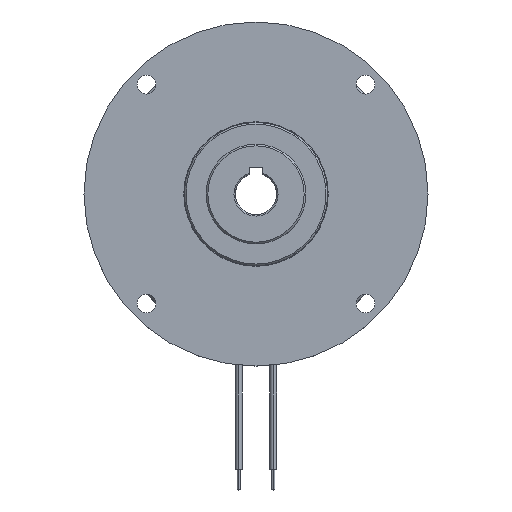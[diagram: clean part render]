
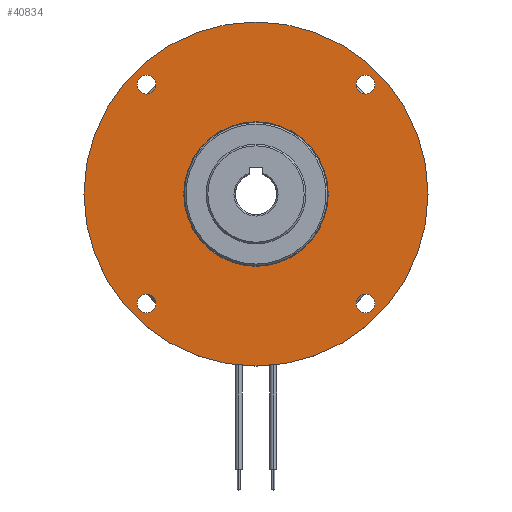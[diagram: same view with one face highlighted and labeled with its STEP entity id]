
A CAD part, top view. The second image highlights one B-rep face of the part: STEP entity #40834.
In plain terms, the highlighted planar face has unit normal (0, 0, 1).
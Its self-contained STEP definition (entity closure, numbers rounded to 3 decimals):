
#3764 = DIRECTION ( 'NONE',  ( -1., 0., 0. ) ) ;
#4330 = VERTEX_POINT ( 'NONE', #70142 ) ;
#4868 = CIRCLE ( 'NONE', #85095, 2.75 ) ;
#7172 = CARTESIAN_POINT ( 'NONE',  ( -21., 0., 0. ) ) ;
#9458 = VERTEX_POINT ( 'NONE', #82397 ) ;
#10995 = CARTESIAN_POINT ( 'NONE',  ( -31.82, 31.82, 0. ) ) ;
#11081 = DIRECTION ( 'NONE',  ( -1., 0., 0. ) ) ;
#11146 = CIRCLE ( 'NONE', #25384, 2.75 ) ;
#11988 = EDGE_CURVE ( 'NONE', #19057, #4330, #105166, .T. ) ;
#12951 = VERTEX_POINT ( 'NONE', #30511 ) ;
#13794 = ORIENTED_EDGE ( 'NONE', *, *, #35225, .T. ) ;
#15582 = CARTESIAN_POINT ( 'NONE',  ( 0., 50., 0. ) ) ;
#16124 = FACE_BOUND ( 'NONE', #69170, .T. ) ;
#16131 = VERTEX_POINT ( 'NONE', #94297 ) ;
#16792 = AXIS2_PLACEMENT_3D ( 'NONE', #10995, #75872, #19922 ) ;
#17080 = DIRECTION ( 'NONE',  ( 0., 0., -1. ) ) ;
#17370 = EDGE_CURVE ( 'NONE', #95639, #23855, #38507, .T. ) ;
#17781 = FACE_BOUND ( 'NONE', #86201, .T. ) ;
#19057 = VERTEX_POINT ( 'NONE', #7172 ) ;
#19226 = DIRECTION ( 'NONE',  ( 0., 0., -1. ) ) ;
#19418 = DIRECTION ( 'NONE',  ( 0., 0., -1. ) ) ;
#19922 = DIRECTION ( 'NONE',  ( -1., 0., 0. ) ) ;
#20063 = AXIS2_PLACEMENT_3D ( 'NONE', #97360, #88964, #69481 ) ;
#20790 = AXIS2_PLACEMENT_3D ( 'NONE', #50366, #33062, #30874 ) ;
#21067 = CARTESIAN_POINT ( 'NONE',  ( -34.57, 31.82, 0. ) ) ;
#21420 = DIRECTION ( 'NONE',  ( -1., 0., 0. ) ) ;
#23687 = EDGE_CURVE ( 'NONE', #16131, #88543, #4868, .T. ) ;
#23855 = VERTEX_POINT ( 'NONE', #82486 ) ;
#25025 = DIRECTION ( 'NONE',  ( 0., 0., -1. ) ) ;
#25384 = AXIS2_PLACEMENT_3D ( 'NONE', #48357, #99167, #3764 ) ;
#25431 = CARTESIAN_POINT ( 'NONE',  ( 0., 0., 0. ) ) ;
#25958 = EDGE_LOOP ( 'NONE', ( #103719, #81990 ) ) ;
#30511 = CARTESIAN_POINT ( 'NONE',  ( 50., 0., 0. ) ) ;
#30520 = EDGE_CURVE ( 'NONE', #23855, #95639, #93157, .T. ) ;
#30763 = AXIS2_PLACEMENT_3D ( 'NONE', #95674, #19226, #21420 ) ;
#30874 = DIRECTION ( 'NONE',  ( -1., 0., 0. ) ) ;
#33062 = DIRECTION ( 'NONE',  ( 0., 0., -1. ) ) ;
#33333 = ORIENTED_EDGE ( 'NONE', *, *, #49037, .T. ) ;
#33468 = DIRECTION ( 'NONE',  ( -1., 0., 0. ) ) ;
#33849 = AXIS2_PLACEMENT_3D ( 'NONE', #25431, #17080, #84023 ) ;
#35225 = EDGE_CURVE ( 'NONE', #9458, #48811, #91358, .T. ) ;
#35684 = CARTESIAN_POINT ( 'NONE',  ( 0., 0., 0. ) ) ;
#36072 = VERTEX_POINT ( 'NONE', #21067 ) ;
#36259 = DIRECTION ( 'NONE',  ( -1., 0., 0. ) ) ;
#36508 = EDGE_LOOP ( 'NONE', ( #65456, #33333 ) ) ;
#37481 = VERTEX_POINT ( 'NONE', #59401 ) ;
#37899 = DIRECTION ( 'NONE',  ( 0., 0., -1. ) ) ;
#38507 = CIRCLE ( 'NONE', #92001, 2.75 ) ;
#40834 = ADVANCED_FACE ( 'NONE', ( #16124, #100947, #49572, #50122, #67999, #17781 ), #109337, .F. ) ;
#40874 = AXIS2_PLACEMENT_3D ( 'NONE', #35684, #69739, #103796 ) ;
#41195 = DIRECTION ( 'NONE',  ( -1., 0., 0. ) ) ;
#42391 = ORIENTED_EDGE ( 'NONE', *, *, #55561, .F. ) ;
#47944 = CIRCLE ( 'NONE', #108637, 2.75 ) ;
#48357 = CARTESIAN_POINT ( 'NONE',  ( -31.82, 31.82, 0. ) ) ;
#48811 = VERTEX_POINT ( 'NONE', #91498 ) ;
#49037 = EDGE_CURVE ( 'NONE', #104014, #36072, #11146, .T. ) ;
#49441 = CARTESIAN_POINT ( 'NONE',  ( -29.07, 31.82, 0. ) ) ;
#49572 = FACE_BOUND ( 'NONE', #84349, .T. ) ;
#50122 = FACE_BOUND ( 'NONE', #36508, .T. ) ;
#50202 = DIRECTION ( 'NONE',  ( 0., 0., -1. ) ) ;
#50366 = CARTESIAN_POINT ( 'NONE',  ( 0., 0., 0. ) ) ;
#55561 = EDGE_CURVE ( 'NONE', #37481, #12951, #74721, .T. ) ;
#56350 = EDGE_CURVE ( 'NONE', #48811, #9458, #106646, .T. ) ;
#56990 = DIRECTION ( 'NONE',  ( 0., 0., -1. ) ) ;
#58821 = EDGE_LOOP ( 'NONE', ( #42391, #60362 ) ) ;
#59401 = CARTESIAN_POINT ( 'NONE',  ( -50., 0., 0. ) ) ;
#59404 = ORIENTED_EDGE ( 'NONE', *, *, #11988, .T. ) ;
#59446 = AXIS2_PLACEMENT_3D ( 'NONE', #15582, #25025, #41195 ) ;
#60362 = ORIENTED_EDGE ( 'NONE', *, *, #63280, .F. ) ;
#61840 = CARTESIAN_POINT ( 'NONE',  ( -31.82, -31.82, 0. ) ) ;
#61923 = CARTESIAN_POINT ( 'NONE',  ( 31.82, -31.82, 0. ) ) ;
#62440 = ORIENTED_EDGE ( 'NONE', *, *, #90411, .T. ) ;
#63183 = CARTESIAN_POINT ( 'NONE',  ( 31.82, 31.82, 0. ) ) ;
#63280 = EDGE_CURVE ( 'NONE', #12951, #37481, #105679, .T. ) ;
#65339 = CIRCLE ( 'NONE', #20790, 21. ) ;
#65456 = ORIENTED_EDGE ( 'NONE', *, *, #102928, .T. ) ;
#67999 = FACE_OUTER_BOUND ( 'NONE', #58821, .T. ) ;
#68149 = AXIS2_PLACEMENT_3D ( 'NONE', #69651, #19418, #97003 ) ;
#69170 = EDGE_LOOP ( 'NONE', ( #13794, #80599 ) ) ;
#69481 = DIRECTION ( 'NONE',  ( -1., 0., 0. ) ) ;
#69651 = CARTESIAN_POINT ( 'NONE',  ( 31.82, -31.82, 0. ) ) ;
#69739 = DIRECTION ( 'NONE',  ( 0., 0., -1. ) ) ;
#70142 = CARTESIAN_POINT ( 'NONE',  ( 21., 0., 0. ) ) ;
#70208 = CARTESIAN_POINT ( 'NONE',  ( 29.07, -31.82, 0. ) ) ;
#70448 = EDGE_CURVE ( 'NONE', #4330, #19057, #65339, .T. ) ;
#72750 = AXIS2_PLACEMENT_3D ( 'NONE', #63183, #56990, #106694 ) ;
#74721 = CIRCLE ( 'NONE', #40874, 50. ) ;
#75872 = DIRECTION ( 'NONE',  ( 0., 0., -1. ) ) ;
#80599 = ORIENTED_EDGE ( 'NONE', *, *, #56350, .T. ) ;
#81990 = ORIENTED_EDGE ( 'NONE', *, *, #30520, .T. ) ;
#82397 = CARTESIAN_POINT ( 'NONE',  ( 29.07, 31.82, 0. ) ) ;
#82486 = CARTESIAN_POINT ( 'NONE',  ( 34.57, -31.82, 0. ) ) ;
#84023 = DIRECTION ( 'NONE',  ( -1., 0., 0. ) ) ;
#84349 = EDGE_LOOP ( 'NONE', ( #89998, #62440 ) ) ;
#85095 = AXIS2_PLACEMENT_3D ( 'NONE', #109957, #50202, #33468 ) ;
#85237 = CARTESIAN_POINT ( 'NONE',  ( -29.07, -31.82, 0. ) ) ;
#86201 = EDGE_LOOP ( 'NONE', ( #59404, #92294 ) ) ;
#88543 = VERTEX_POINT ( 'NONE', #85237 ) ;
#88964 = DIRECTION ( 'NONE',  ( 0., 0., -1. ) ) ;
#89998 = ORIENTED_EDGE ( 'NONE', *, *, #23687, .T. ) ;
#90411 = EDGE_CURVE ( 'NONE', #88543, #16131, #47944, .T. ) ;
#91358 = CIRCLE ( 'NONE', #20063, 2.75 ) ;
#91498 = CARTESIAN_POINT ( 'NONE',  ( 34.57, 31.82, 0. ) ) ;
#92001 = AXIS2_PLACEMENT_3D ( 'NONE', #61923, #37899, #36259 ) ;
#92294 = ORIENTED_EDGE ( 'NONE', *, *, #70448, .T. ) ;
#93157 = CIRCLE ( 'NONE', #68149, 2.75 ) ;
#94297 = CARTESIAN_POINT ( 'NONE',  ( -34.57, -31.82, 0. ) ) ;
#95239 = CIRCLE ( 'NONE', #16792, 2.75 ) ;
#95639 = VERTEX_POINT ( 'NONE', #70208 ) ;
#95674 = CARTESIAN_POINT ( 'NONE',  ( 0., 0., 0. ) ) ;
#97003 = DIRECTION ( 'NONE',  ( -1., 0., 0. ) ) ;
#97360 = CARTESIAN_POINT ( 'NONE',  ( 31.82, 31.82, 0. ) ) ;
#99167 = DIRECTION ( 'NONE',  ( 0., 0., -1. ) ) ;
#100947 = FACE_BOUND ( 'NONE', #25958, .T. ) ;
#102928 = EDGE_CURVE ( 'NONE', #36072, #104014, #95239, .T. ) ;
#103719 = ORIENTED_EDGE ( 'NONE', *, *, #17370, .T. ) ;
#103725 = DIRECTION ( 'NONE',  ( 0., 0., -1. ) ) ;
#103796 = DIRECTION ( 'NONE',  ( -1., 0., 0. ) ) ;
#104014 = VERTEX_POINT ( 'NONE', #49441 ) ;
#105166 = CIRCLE ( 'NONE', #33849, 21. ) ;
#105679 = CIRCLE ( 'NONE', #30763, 50. ) ;
#106646 = CIRCLE ( 'NONE', #72750, 2.75 ) ;
#106694 = DIRECTION ( 'NONE',  ( -1., 0., 0. ) ) ;
#108637 = AXIS2_PLACEMENT_3D ( 'NONE', #61840, #103725, #11081 ) ;
#109337 = PLANE ( 'NONE',  #59446 ) ;
#109957 = CARTESIAN_POINT ( 'NONE',  ( -31.82, -31.82, 0. ) ) ;
